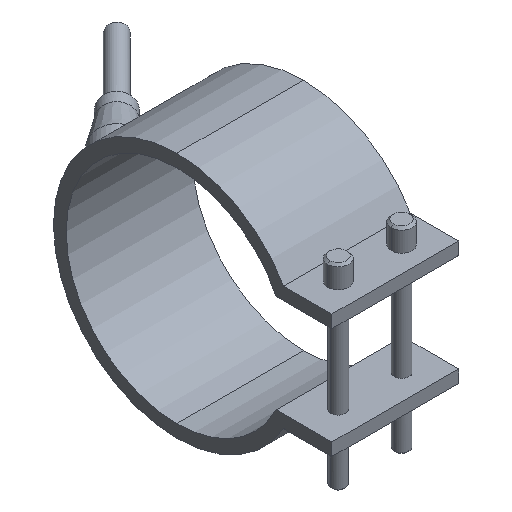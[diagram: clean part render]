
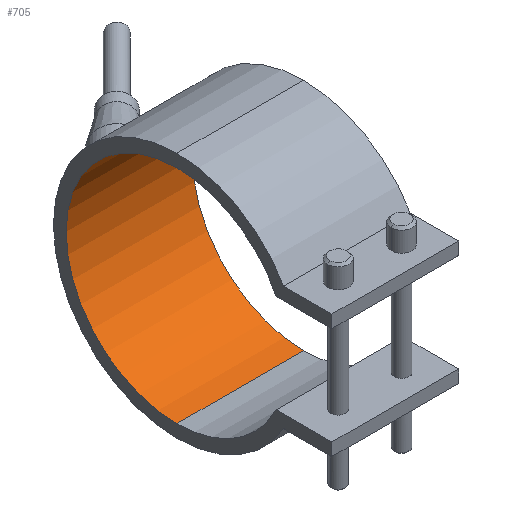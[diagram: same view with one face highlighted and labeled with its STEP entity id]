
A CAD part, isometric view. The second image highlights one B-rep face of the part: STEP entity #705.
In plain terms, the highlighted cylindrical face has radius 35 mm (diameter 70 mm), a partial arc.
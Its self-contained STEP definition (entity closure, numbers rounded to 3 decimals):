
#375=CARTESIAN_POINT('Vertex',(20.,0.,35.)) ;
#380=CARTESIAN_POINT('Axis2P3D Location',(20.,0.,0.)) ;
#384=CARTESIAN_POINT('Vertex',(20.,0.,-35.)) ;
#491=CARTESIAN_POINT('Vertex',(-20.,0.,-35.)) ;
#494=CARTESIAN_POINT('Axis2P3D Location',(-20.,0.,0.)) ;
#498=CARTESIAN_POINT('Vertex',(-20.,0.,35.)) ;
#677=CARTESIAN_POINT('Line Origine',(20.,0.,35.)) ;
#689=CARTESIAN_POINT('Axis2P3D Location',(20.,0.,0.)) ;
#694=CARTESIAN_POINT('Line Origine',(20.,0.,-35.)) ;
#381=DIRECTION('Axis2P3D Direction',(1.,0.,0.)) ;
#495=DIRECTION('Axis2P3D Direction',(1.,0.,0.)) ;
#678=DIRECTION('Vector Direction',(1.,0.,0.)) ;
#690=DIRECTION('Axis2P3D Direction',(1.,0.,-0.)) ;
#691=DIRECTION('Axis2P3D XDirection',(0.,0.,-1.)) ;
#695=DIRECTION('Vector Direction',(1.,0.,0.)) ;
#382=AXIS2_PLACEMENT_3D('Circle Axis2P3D',#380,#381,$) ;
#496=AXIS2_PLACEMENT_3D('Circle Axis2P3D',#494,#495,$) ;
#692=AXIS2_PLACEMENT_3D('Cylinder Axis2P3D',#689,#690,#691) ;
#700=ORIENTED_EDGE('',*,*,#386,.T.) ;
#701=ORIENTED_EDGE('',*,*,#681,.T.) ;
#702=ORIENTED_EDGE('',*,*,#500,.F.) ;
#703=ORIENTED_EDGE('',*,*,#698,.T.) ;
#679=VECTOR('Line Direction',#678,1.) ;
#696=VECTOR('Line Direction',#695,1.) ;
#705=ADVANCED_FACE('29070040',(#704),#693,.F.) ;
#383=CIRCLE('generated circle',#382,35.) ;
#497=CIRCLE('generated circle',#496,35.) ;
#693=CYLINDRICAL_SURFACE('generated cylinder',#692,35.) ;
#386=EDGE_CURVE('',#385,#376,#383,.T.) ;
#500=EDGE_CURVE('',#492,#499,#497,.T.) ;
#681=EDGE_CURVE('',#376,#499,#680,.F.) ;
#698=EDGE_CURVE('',#492,#385,#697,.T.) ;
#699=EDGE_LOOP('',(#700,#701,#702,#703)) ;
#704=FACE_OUTER_BOUND('',#699,.T.) ;
#680=LINE('Line',#677,#679) ;
#697=LINE('Line',#694,#696) ;
#376=VERTEX_POINT('',#375) ;
#385=VERTEX_POINT('',#384) ;
#492=VERTEX_POINT('',#491) ;
#499=VERTEX_POINT('',#498) ;
